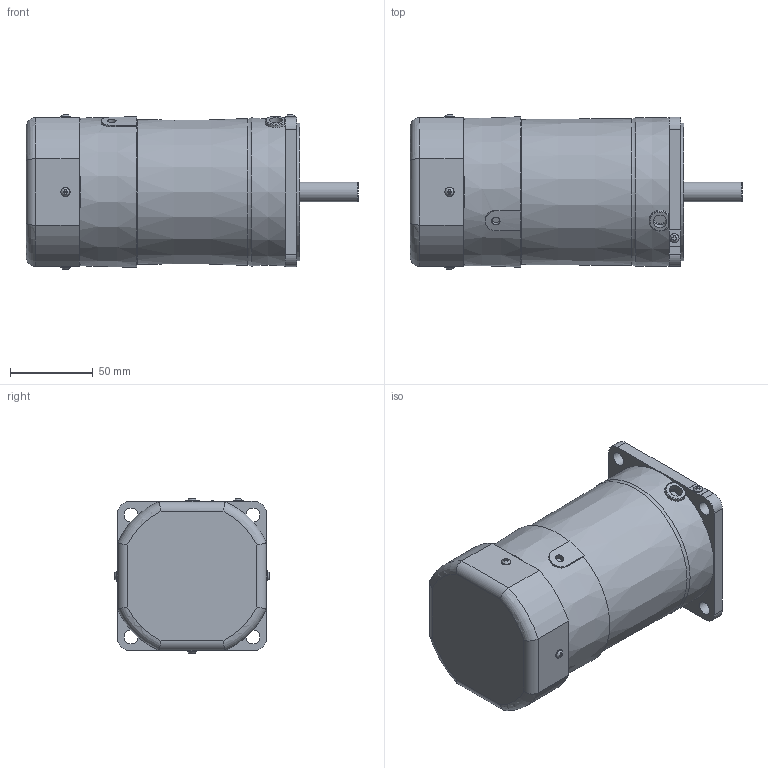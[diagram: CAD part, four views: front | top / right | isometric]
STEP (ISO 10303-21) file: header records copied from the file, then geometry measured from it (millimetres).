
FILE_DESCRIPTION(/* description */ (''),/* implementation_level */ '2;1');
FILE_NAME(/* name */ 'E:\도면작업\2016\0704) 미주향 SG 도면\3D MOTOR\ELECTROMAGNETIC BRAKE\SG9R(I)60S_-E.stp',/* time_stamp */ '2017-03-21T15:10:56+09:00',/* author */ ('jy-jung'),/* organization */ (''),/* preprocessor_version */ 'ST-DEVELOPER v15.6',/* originating_system */ 'Autodesk Inventor 2015',/* authorisation */ '');
FILE_SCHEMA (('AUTOMOTIVE_DESIGN { 1 0 10303 214 3 1 1 }'));
Length unit declared in the file: millimetre
Products named in the file (1): 부품23
Bounding box: 200.3 x 93.89 x 93.89 mm (x, y, z)
Volume: 1050042 mm3; surface area: 70538.8 mm2
Topology: 1 solids, 6 shells, 229 faces, 586 edges, 386 vertices
Faces by surface type: plane 146, cylinder 55, torus 14, cone 8, bspline 5, sphere 1
Full cylindrical faces by diameter (mm): 3 x4, 3.5 x4, 5 x1, 5.6 x5, 8 x1, 8.5 x4, 10 x1, 12 x1, 40 x1, 83 x1, 86 x1
Entity records: 7468 total; most frequent: CARTESIAN_POINT 1907, ORIENTED_EDGE 1066, DIRECTION 1034, EDGE_CURVE 533, VERTEX_POINT 375, AXIS2_PLACEMENT_3D 367, EDGE_LOOP 306, LINE 300
